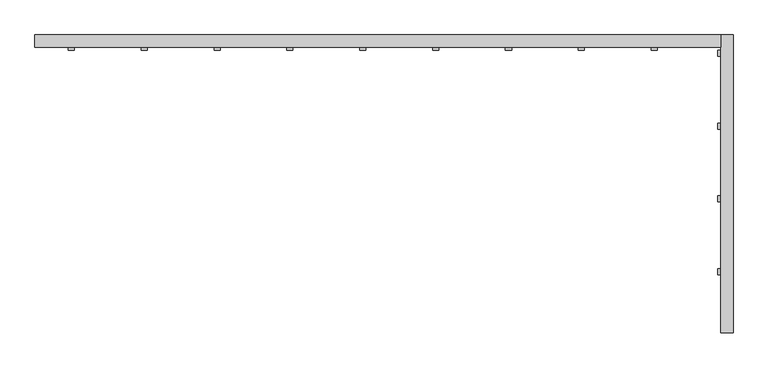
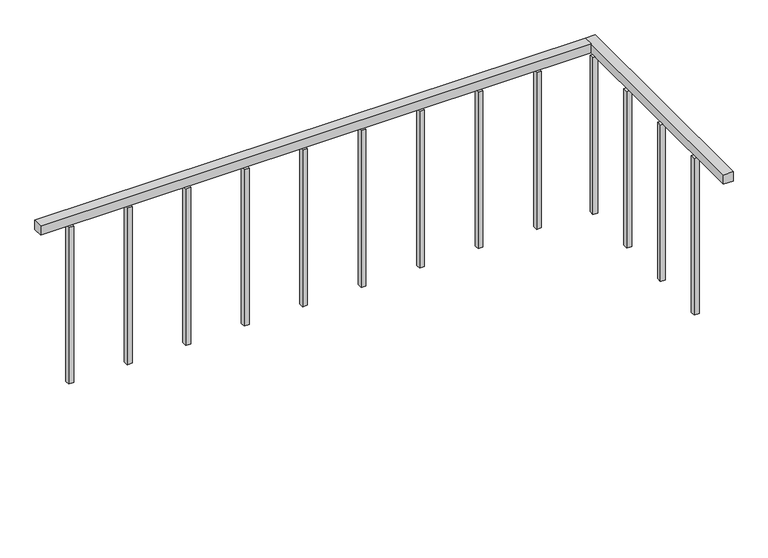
"""IFC4 building model written with IfcOpenShell, lengths in millimetres: railing geometry, ADSK_Стандартное_h 900 Поручень квадратный без направляющих."""

from ifc_helpers import new_model, si_unit, frame, origin, place, context, project, spatial, polyline, outline, extrude, source, transform, mapped, element, save


def railing_34af6e40(model_context):
    return source(origin(), model_context, "Body", "SweptSolid", [
        extrude(outline(polyline([(-3162.3240021, -4755.9622422), (-3162.3240021, -4705.9622422), (-337.7240021, -4705.9622422), (-337.7240021, -4755.9622422), (-3162.3240021, -4755.9622422)])), frame((0.0, 0.0, 4495.8333333), z_axis=(0.0, 0.0, 1.0), x_axis=(1.0, 0.0, 0.0)), (0.0, 0.0, 1.0), 50.0),
        extrude(outline(polyline([(-337.7240021, -4705.9622422), (-287.7240021, -4705.9622422), (-287.7240021, -5931.5777713), (-337.7240021, -5931.5777713), (-337.7240021, -4705.9622422)])), frame((0.0, 0.0, 4495.8333333), z_axis=(0.0, 0.0, 1.0), x_axis=(1.0, 0.0, 0.0)), (0.0, 0.0, 1.0), 50.0),
        extrude(outline(polyline([(-325.2240021, -5668.8622422), (-325.2240021, -5693.8622422), (-350.2240021, -5693.8622422), (-350.2240021, -5668.8622422), (-325.2240021, -5668.8622422)])), frame((0.0, 0.0, 3645.8333333), z_axis=(0.0, 0.0, 1.0), x_axis=(1.0, 0.0, 0.0)), (0.0, 0.0, 1.0), 850.0),
        extrude(outline(polyline([(-325.2240021, -5368.8622422), (-325.2240021, -5393.8622422), (-350.2240021, -5393.8622422), (-350.2240021, -5368.8622422), (-325.2240021, -5368.8622422)])), frame((0.0, 0.0, 3645.8333333), z_axis=(0.0, 0.0, 1.0), x_axis=(1.0, 0.0, 0.0)), (0.0, 0.0, 1.0), 850.0),
        extrude(outline(polyline([(-325.2240021, -5068.8622422), (-325.2240021, -5093.8622422), (-350.2240021, -5093.8622422), (-350.2240021, -5068.8622422), (-325.2240021, -5068.8622422)])), frame((0.0, 0.0, 3645.8333333), z_axis=(0.0, 0.0, 1.0), x_axis=(1.0, 0.0, 0.0)), (0.0, 0.0, 1.0), 850.0),
        extrude(outline(polyline([(-325.2240021, -4768.8622422), (-325.2240021, -4793.8622422), (-350.2240021, -4793.8622422), (-350.2240021, -4768.8622422), (-325.2240021, -4768.8622422)])), frame((0.0, 0.0, 3645.8333333), z_axis=(0.0, 0.0, 1.0), x_axis=(1.0, 0.0, 0.0)), (0.0, 0.0, 1.0), 850.0),
        extrude(outline(polyline([(-624.8240021, -4743.4622422), (-599.8240021, -4743.4622422), (-599.8240021, -4768.4622422), (-624.8240021, -4768.4622422), (-624.8240021, -4743.4622422)])), frame((0.0, 0.0, 3645.8333333), z_axis=(0.0, 0.0, 1.0), x_axis=(1.0, 0.0, 0.0)), (0.0, 0.0, 1.0), 850.0),
        extrude(outline(polyline([(-924.8240021, -4743.4622422), (-899.8240021, -4743.4622422), (-899.8240021, -4768.4622422), (-924.8240021, -4768.4622422), (-924.8240021, -4743.4622422)])), frame((0.0, 0.0, 3645.8333333), z_axis=(0.0, 0.0, 1.0), x_axis=(1.0, 0.0, 0.0)), (0.0, 0.0, 1.0), 850.0),
        extrude(outline(polyline([(-1224.8240021, -4743.4622422), (-1199.8240021, -4743.4622422), (-1199.8240021, -4768.4622422), (-1224.8240021, -4768.4622422), (-1224.8240021, -4743.4622422)])), frame((0.0, 0.0, 3645.8333333), z_axis=(0.0, 0.0, 1.0), x_axis=(1.0, 0.0, 0.0)), (0.0, 0.0, 1.0), 850.0),
        extrude(outline(polyline([(-1524.8240021, -4743.4622422), (-1499.8240021, -4743.4622422), (-1499.8240021, -4768.4622422), (-1524.8240021, -4768.4622422), (-1524.8240021, -4743.4622422)])), frame((0.0, 0.0, 3645.8333333), z_axis=(0.0, 0.0, 1.0), x_axis=(1.0, 0.0, 0.0)), (0.0, 0.0, 1.0), 850.0),
        extrude(outline(polyline([(-1824.8240021, -4743.4622422), (-1799.8240021, -4743.4622422), (-1799.8240021, -4768.4622422), (-1824.8240021, -4768.4622422), (-1824.8240021, -4743.4622422)])), frame((0.0, 0.0, 3645.8333333), z_axis=(0.0, 0.0, 1.0), x_axis=(1.0, 0.0, 0.0)), (0.0, 0.0, 1.0), 850.0),
        extrude(outline(polyline([(-2124.8240021, -4743.4622422), (-2099.8240021, -4743.4622422), (-2099.8240021, -4768.4622422), (-2124.8240021, -4768.4622422), (-2124.8240021, -4743.4622422)])), frame((0.0, 0.0, 3645.8333333), z_axis=(0.0, 0.0, 1.0), x_axis=(1.0, 0.0, 0.0)), (0.0, 0.0, 1.0), 850.0),
        extrude(outline(polyline([(-2424.8240021, -4743.4622422), (-2399.8240021, -4743.4622422), (-2399.8240021, -4768.4622422), (-2424.8240021, -4768.4622422), (-2424.8240021, -4743.4622422)])), frame((0.0, 0.0, 3645.8333333), z_axis=(0.0, 0.0, 1.0), x_axis=(1.0, 0.0, 0.0)), (0.0, 0.0, 1.0), 850.0),
        extrude(outline(polyline([(-2724.8240021, -4743.4622422), (-2699.8240021, -4743.4622422), (-2699.8240021, -4768.4622422), (-2724.8240021, -4768.4622422), (-2724.8240021, -4743.4622422)])), frame((0.0, 0.0, 3645.8333333), z_axis=(0.0, 0.0, 1.0), x_axis=(1.0, 0.0, 0.0)), (0.0, 0.0, 1.0), 850.0),
        extrude(outline(polyline([(-3024.8240021, -4743.4622422), (-2999.8240021, -4743.4622422), (-2999.8240021, -4768.4622422), (-3024.8240021, -4768.4622422), (-3024.8240021, -4743.4622422)])), frame((0.0, 0.0, 3645.8333333), z_axis=(0.0, 0.0, 1.0), x_axis=(1.0, 0.0, 0.0)), (0.0, 0.0, 1.0), 850.0),
    ])


if __name__ == "__main__":
    model = new_model("IFC4")
    model_context = context("Model", 3, world=origin())
    ifc_project = project(units=[si_unit("LENGTHUNIT", "METRE", prefix="MILLI")], contexts=[model_context])
    site = spatial("IfcSite", under=ifc_project)
    building = spatial("IfcBuilding", under=site)
    placement = place(None, origin())
    railing_shape = railing_34af6e40(model_context)
    element("IfcRailing", 1, ObjectType="ADSK_Стандартное_h 900 Поручень квадратный без направляющих", at=placement, inside=building, context=model_context, shape_type="MappedRepresentation", body=[
        mapped(railing_shape, transform((0.0, 0.0, 0.0), x_axis=(1.0, 0.0, 0.0), y_axis=(0.0, 1.0, 0.0), z_axis=(0.0, 0.0, 1.0))),
    ])
    save(model, "model.ifc")
